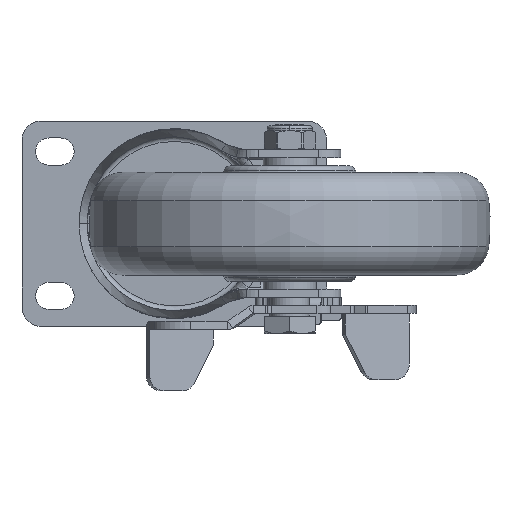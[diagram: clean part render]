
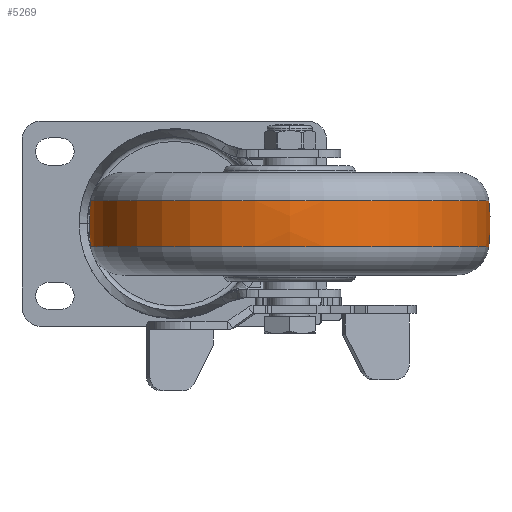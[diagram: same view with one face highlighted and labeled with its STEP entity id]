
A CAD part, front view. The second image highlights one B-rep face of the part: STEP entity #5269.
In plain terms, the highlighted free-form (B-spline) face has degree [3, 3] with [7, 4] control points.
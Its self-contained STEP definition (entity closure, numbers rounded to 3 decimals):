
#4661=CARTESIAN_POINT('',(-7.2,0.,0.));
#4662=DIRECTION('',(-1.,0.,0.));
#4663=DIRECTION('',(0.,1.,0.));
#4664=AXIS2_PLACEMENT_3D('',#4661,#4662,#4663);
#4676=CARTESIAN_POINT('',(0.,2.5,0.));
#4677=DIRECTION('',(0.,0.,1.));
#4678=DIRECTION('',(0.12,0.993,0.));
#4679=AXIS2_PLACEMENT_3D('',#4676,#4677,#4678);
#4681=CARTESIAN_POINT('',(0.,-2.5,0.));
#4682=DIRECTION('',(0.,0.,-1.));
#4683=DIRECTION('',(0.12,-0.993,0.));
#4684=AXIS2_PLACEMENT_3D('',#4681,#4682,#4683);
#4686=CARTESIAN_POINT('',(7.2,0.,0.));
#4687=DIRECTION('',(-1.,0.,0.));
#4688=DIRECTION('',(0.,1.,0.));
#4689=AXIS2_PLACEMENT_3D('',#4686,#4687,#4688);
#4910=CARTESIAN_POINT('',(-7.2,62.066,0.));
#4912=VERTEX_POINT('',#4910);
#4914=CARTESIAN_POINT('',(-7.2,-62.066,
0.));
#4916=VERTEX_POINT('',#4914);
#4943=CARTESIAN_POINT('',(7.2,62.066,0.));
#4945=VERTEX_POINT('',#4943);
#4947=CARTESIAN_POINT('',(7.2,-62.066,
0.));
#4949=VERTEX_POINT('',#4947);
#5233=CARTESIAN_POINT('',(-7.487,-61.909,
3.895));
#5234=CARTESIAN_POINT('',(-2.509,-62.533,
3.934));
#5235=CARTESIAN_POINT('',(2.509,-62.533,3.934));
#5236=CARTESIAN_POINT('',(7.487,-61.909,3.895));
#5237=CARTESIAN_POINT('',(-7.487,-64.306,
-34.204));
#5238=CARTESIAN_POINT('',(-2.509,-64.955,
-34.549));
#5239=CARTESIAN_POINT('',(2.509,-64.955,
-34.549));
#5240=CARTESIAN_POINT('',(7.487,-64.306,
-34.204));
#5241=CARTESIAN_POINT('',(-7.487,-38.174,
-62.031));
#5242=CARTESIAN_POINT('',(-2.509,-38.559,
-62.657));
#5243=CARTESIAN_POINT('',(2.509,-38.559,
-62.657));
#5244=CARTESIAN_POINT('',(7.487,-38.174,
-62.031));
#5245=CARTESIAN_POINT('',(-7.487,0.,
-62.031));
#5246=CARTESIAN_POINT('',(-2.509,0.,
-62.657));
#5247=CARTESIAN_POINT('',(2.509,0.,
-62.657));
#5248=CARTESIAN_POINT('',(7.487,0.,
-62.031));
#5249=CARTESIAN_POINT('',(-7.487,38.174,
-62.031));
#5250=CARTESIAN_POINT('',(-2.509,38.559,
-62.657));
#5251=CARTESIAN_POINT('',(2.509,38.559,-62.657));
#5252=CARTESIAN_POINT('',(7.487,38.174,-62.031));
#5253=CARTESIAN_POINT('',(-7.487,64.306,
-34.204));
#5254=CARTESIAN_POINT('',(-2.509,64.955,
-34.549));
#5255=CARTESIAN_POINT('',(2.509,64.955,-34.549));
#5256=CARTESIAN_POINT('',(7.487,64.306,-34.204));
#5257=CARTESIAN_POINT('',(-7.487,61.909,3.895));
#5258=CARTESIAN_POINT('',(-2.509,62.533,3.934));
#5259=CARTESIAN_POINT('',(2.509,62.533,3.934));
#5260=CARTESIAN_POINT('',(7.487,61.909,3.895));
#5261=(BOUNDED_SURFACE()B_SPLINE_SURFACE(3,3,((#5233,#5234,#5235,#5236),(#5237,
#5238,#5239,#5240),(#5241,#5242,#5243,#5244),(#5245,#5246,#5247,#5248),(#5249,
#5250,#5251,#5252),(#5253,#5254,#5255,#5256),(#5257,#5258,#5259,#5260)),
.UNSPECIFIED.,.F.,.F.,.F.)B_SPLINE_SURFACE_WITH_KNOTS((4,3,4),(4,4),(0.,1.,
2.),(0.,1.),.UNSPECIFIED.)GEOMETRIC_REPRESENTATION_ITEM()RATIONAL_B_SPLINE_SURFACE(((1.192,1.186,1.186,1.192),(
0.941,0.936,0.936,0.941),(
0.941,0.936,0.936,0.941),(
1.192,1.186,1.186,1.192),(
0.941,0.936,0.936,0.941),(
0.941,0.936,0.936,0.941),(
1.192,1.186,1.186,1.192)))REPRESENTATION_ITEM('')SURFACE());
#5262=ORIENTED_EDGE('',*,*,#5223,.T.);
#5263=ORIENTED_EDGE('',*,*,#5176,.T.);
#5264=ORIENTED_EDGE('',*,*,#5227,.F.);
#5266=ORIENTED_EDGE('',*,*,#5265,.F.);
#5267=EDGE_LOOP('',(#5262,#5263,#5264,#5266));
#5268=FACE_OUTER_BOUND('',#5267,.F.);
#4665=CIRCLE('',#4664,62.066);
#4680=CIRCLE('',#4679,60.);
#4685=CIRCLE('',#4684,60.);
#4690=CIRCLE('',#4689,62.066);
#5176=EDGE_CURVE('',#4912,#4916,#4665,.T.);
#5223=EDGE_CURVE('',#4945,#4912,#4680,.T.);
#5227=EDGE_CURVE('',#4949,#4916,#4685,.T.);
#5265=EDGE_CURVE('',#4945,#4949,#4690,.T.);
#5269=ADVANCED_FACE('',(#5268),#5261,.T.);
